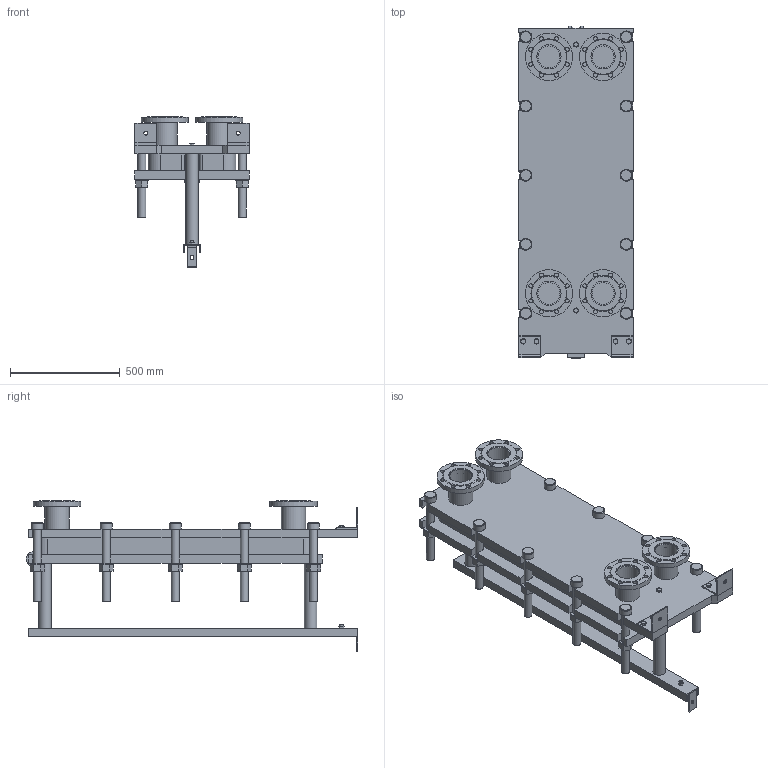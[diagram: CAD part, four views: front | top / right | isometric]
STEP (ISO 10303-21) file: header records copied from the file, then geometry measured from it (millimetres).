
FILE_DESCRIPTION(/* description */ (''),/* implementation_level */ '2;1');
FILE_NAME(/* name */ 'C:\Users\zhuro\Desktop\ENCO\TO\ЭН-04\ЭН-0,5-04-22-1.stp',/* time_stamp */ '2022-06-06T10:46:01+03:00',/* author */ ('zhuro'),/* organization */ (''),/* preprocessor_version */ 'ST-DEVELOPER v18.1',/* originating_system */ 'Autodesk Inventor 2022',/* authorisation */ '');
FILE_SCHEMA (('AUTOMOTIVE_DESIGN { 1 0 10303 214 3 1 1 }'));
Length unit declared in the file: millimetre
Products named in the file (1): ЭН-0,5-04-22-1
Bounding box: 520 x 1510 x 686 mm (x, y, z)
Volume: 104938470.1 mm3; surface area: 6640034.6 mm2
Topology: 45 solids, 45 shells, 668 faces, 1611 edges, 1048 vertices
Faces by surface type: plane 457, cylinder 166, cone 39, torus 6
Full cylindrical faces by diameter (mm): 8 x4, 10 x2, 16 x8, 18 x35, 36 x25, 40 x2, 42 x1, 45 x4, 54 x10, 57 x2, 60 x10, 68 x2, 100 x4, 110 x8, 215 x4
Entity records: 23607 total; most frequent: CARTESIAN_POINT 7348, DIRECTION 3371, ORIENTED_EDGE 3142, EDGE_CURVE 1571, AXIS2_PLACEMENT_3D 1199, VERTEX_POINT 1044, LINE 973, VECTOR 973
